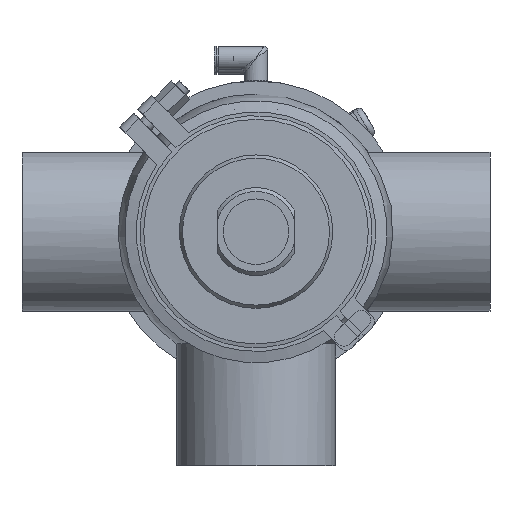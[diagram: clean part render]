
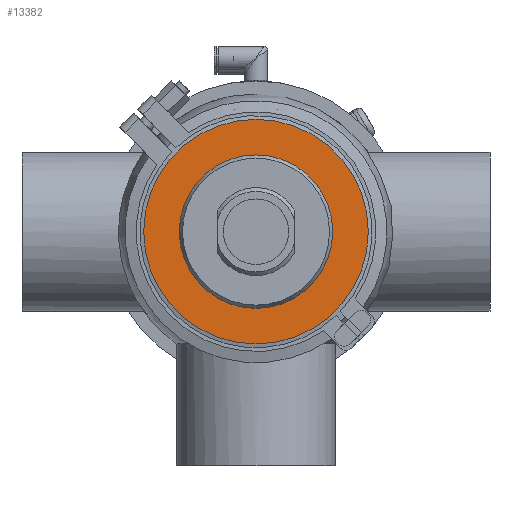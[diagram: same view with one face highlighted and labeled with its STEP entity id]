
A CAD part, front view. The second image highlights one B-rep face of the part: STEP entity #13382.
In plain terms, the highlighted planar face has unit normal (0, -1, 0).
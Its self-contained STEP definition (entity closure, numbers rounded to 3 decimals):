
#1078 = DIRECTION ( 'NONE',  ( 0., 0., 1. ) ) ;
#1162 = ORIENTED_EDGE ( 'NONE', *, *, #17681, .T. ) ;
#6699 = AXIS2_PLACEMENT_3D ( 'NONE', #12237, #42186, #1078 ) ;
#9759 = CARTESIAN_POINT ( 'NONE',  ( -60., -13., 0. ) ) ;
#10831 = EDGE_LOOP ( 'NONE', ( #1162 ) ) ;
#12237 = CARTESIAN_POINT ( 'NONE',  ( 0., -13., 0. ) ) ;
#13382 = ADVANCED_FACE ( 'NONE', ( #14885, #62793 ), #63408, .T. ) ;
#14885 = FACE_BOUND ( 'NONE', #10831, .T. ) ;
#16811 = EDGE_LOOP ( 'NONE', ( #62909 ) ) ;
#17681 = EDGE_CURVE ( 'NONE', #18691, #18691, #55509, .T. ) ;
#18691 = VERTEX_POINT ( 'NONE', #59189 ) ;
#24326 = CARTESIAN_POINT ( 'NONE',  ( 0., -13., 0. ) ) ;
#30186 = CARTESIAN_POINT ( 'NONE',  ( 0., -13., 60. ) ) ;
#34335 = DIRECTION ( 'NONE',  ( 0., 0., 1. ) ) ;
#34864 = EDGE_CURVE ( 'NONE', #45341, #45341, #53914, .T. ) ;
#37101 = AXIS2_PLACEMENT_3D ( 'NONE', #24326, #60263, #34335 ) ;
#42186 = DIRECTION ( 'NONE',  ( 0., 1., 0. ) ) ;
#45341 = VERTEX_POINT ( 'NONE', #30186 ) ;
#48976 = DIRECTION ( 'NONE',  ( 0., 0., -1. ) ) ;
#49293 = DIRECTION ( 'NONE',  ( 0., -1., 0. ) ) ;
#53914 = CIRCLE ( 'NONE', #6699, 60. ) ;
#55509 = CIRCLE ( 'NONE', #37101, 41. ) ;
#56168 = AXIS2_PLACEMENT_3D ( 'NONE', #9759, #49293, #48976 ) ;
#59189 = CARTESIAN_POINT ( 'NONE',  ( 0., -13., 41. ) ) ;
#60263 = DIRECTION ( 'NONE',  ( 0., 1., 0. ) ) ;
#62793 = FACE_OUTER_BOUND ( 'NONE', #16811, .T. ) ;
#62909 = ORIENTED_EDGE ( 'NONE', *, *, #34864, .F. ) ;
#63408 = PLANE ( 'NONE',  #56168 ) ;
